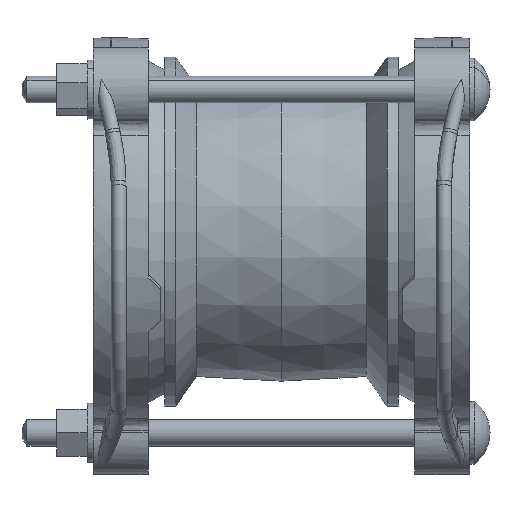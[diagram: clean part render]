
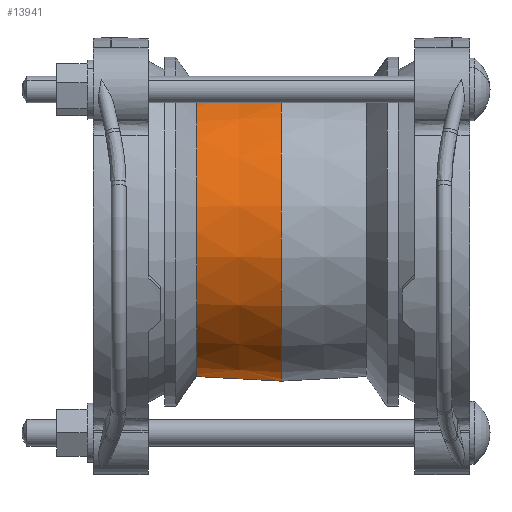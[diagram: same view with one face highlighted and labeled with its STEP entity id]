
A CAD part, left-side view. The second image highlights one B-rep face of the part: STEP entity #13941.
In plain terms, the highlighted conical face has half-angle 3.114 degrees and reference radius 59.818 mm.
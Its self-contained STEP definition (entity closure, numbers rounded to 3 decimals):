
#5330=CARTESIAN_POINT('',(0.,-78.2,0.));
#5331=DIRECTION('',(0.,-1.,0.));
#5332=DIRECTION('',(0.,0.,1.));
#5333=AXIS2_PLACEMENT_3D('',#5330,#5331,#5332);
#5335=DIRECTION('',(0.,0.999,0.054));
#5336=VECTOR('',#5335,34.569);
#5337=CARTESIAN_POINT('',(0.,-78.2,-60.757));
#5338=LINE('',#5337,#5336);
#5339=DIRECTION('',(0.,0.999,-0.054));
#5340=VECTOR('',#5339,34.569);
#5341=CARTESIAN_POINT('',(0.,-78.2,60.757));
#5342=LINE('',#5341,#5340);
#5361=CARTESIAN_POINT('',(0.,-43.682,0.));
#5362=DIRECTION('',(0.,1.,0.));
#5363=DIRECTION('',(0.,0.,-1.));
#5364=AXIS2_PLACEMENT_3D('',#5361,#5362,#5363);
#5717=CARTESIAN_POINT('',(0.,-43.682,-58.879));
#5719=VERTEX_POINT('',#5717);
#5729=CARTESIAN_POINT('',(0.,-43.682,58.879));
#5731=VERTEX_POINT('',#5729);
#6313=CARTESIAN_POINT('',(0.,-78.2,-60.757));
#6314=CARTESIAN_POINT('',(0.,-78.2,60.757));
#6315=VERTEX_POINT('',#6313);
#6316=VERTEX_POINT('',#6314);
#13927=CARTESIAN_POINT('',(0.,-60.941,0.));
#13928=DIRECTION('',(0.,-1.,0.));
#13929=DIRECTION('',(0.,0.,1.));
#13930=AXIS2_PLACEMENT_3D('',#13927,#13928,#13929);
#13931=CONICAL_SURFACE('',#13930,59.818,3.114);
#13932=ORIENTED_EDGE('',*,*,#13917,.T.);
#13934=ORIENTED_EDGE('',*,*,#13933,.T.);
#13936=ORIENTED_EDGE('',*,*,#13935,.T.);
#13938=ORIENTED_EDGE('',*,*,#13937,.F.);
#13939=EDGE_LOOP('',(#13932,#13934,#13936,#13938));
#13940=FACE_OUTER_BOUND('',#13939,.F.);
#13941=ADVANCED_FACE('',(#13940),#13931,.T.);
#5334=CIRCLE('',#5333,60.757);
#5365=CIRCLE('',#5364,58.879);
#13917=EDGE_CURVE('',#6316,#6315,#5334,.T.);
#13933=EDGE_CURVE('',#6315,#5719,#5338,.T.);
#13935=EDGE_CURVE('',#5719,#5731,#5365,.T.);
#13937=EDGE_CURVE('',#6316,#5731,#5342,.T.);
